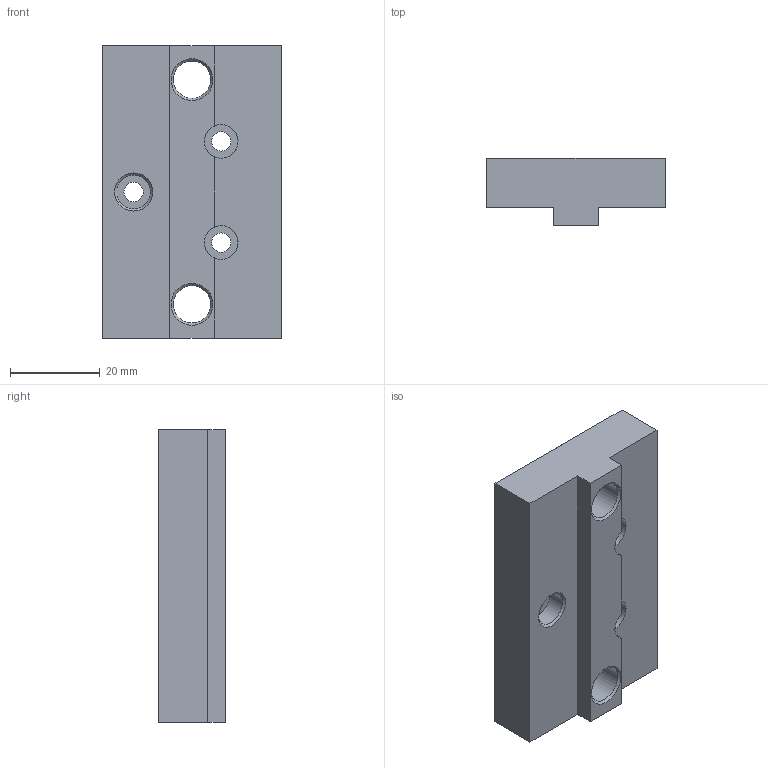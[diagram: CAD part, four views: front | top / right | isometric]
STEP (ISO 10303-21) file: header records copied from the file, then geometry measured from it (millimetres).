
FILE_DESCRIPTION(/* description */ (''),/* implementation_level */ '2;1');
FILE_NAME(/* name */ 'SYSTEM_SUPPORT_03.stp',/* time_stamp */ '2017-12-06T14:25:03+01:00',/* author */ (''),/* organization */ (''),/* preprocessor_version */ 'ST-DEVELOPER v16',/* originating_system */ 'SIEMENS PLM Software NX 10.0',/* authorisation */ '');
FILE_SCHEMA (('AP203_CONFIGURATION_CONTROLLED_3D_DESIGN_OF_MECHANICAL_PARTS_AND_ASSEMBLIES_MIM_LF { 1 0 10303 403 2 1 2}'));
Length unit declared in the file: millimetre
Products named in the file (1): turc1DB80072j4kl
Bounding box: 40 x 15 x 65 mm (x, y, z)
Volume: 23700.9 mm3; surface area: 9635.3 mm2
Topology: 1 solids, 1 shells, 38 faces, 96 edges, 62 vertices
Faces by surface type: plane 18, cylinder 11, cone 9
Full cylindrical faces by diameter (mm): 4.3 x3, 7.5 x3, 8.3 x2, 14 x2, 33 x1
Entity records: 1076 total; most frequent: DIRECTION 178, CARTESIAN_POINT 159, ORIENTED_EDGE 134, AXIS2_PLACEMENT_3D 72, EDGE_LOOP 70, EDGE_CURVE 67, FACE_BOUND 61, VERTEX_POINT 53
